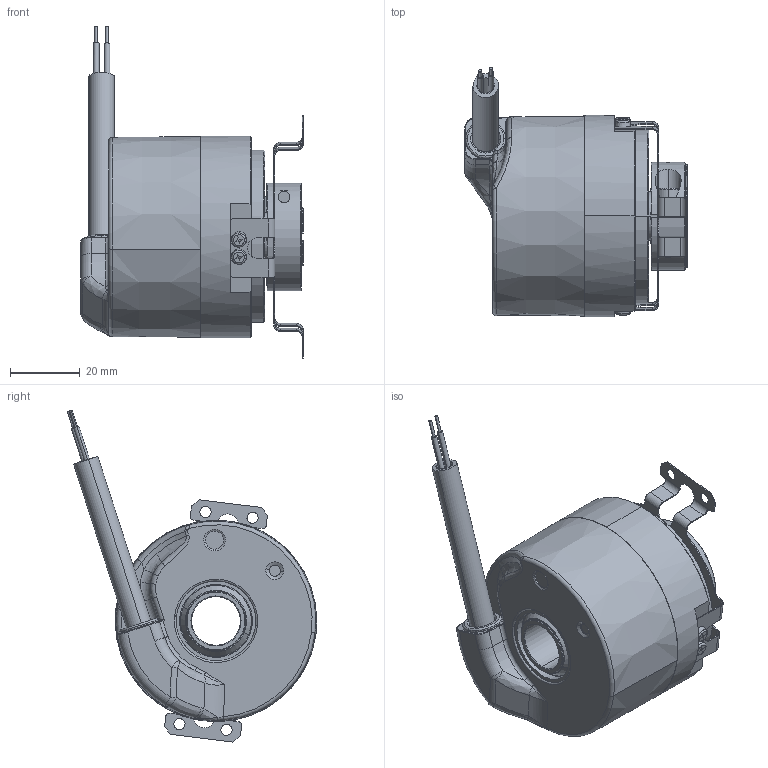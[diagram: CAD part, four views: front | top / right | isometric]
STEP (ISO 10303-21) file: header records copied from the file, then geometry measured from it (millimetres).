
FILE_DESCRIPTION (( 'STEP AP214' ), '1' );
FILE_NAME ('5834SIL.B5XE.XXXX.STEP', '2010-11-18T13:14:43', ( 'admin' ), ( 'Fritz Kübler GmbH' ), 'SwSTEP 2.0', 'SolidWorks 2009', '' );
FILE_SCHEMA (( 'AUTOMOTIVE_DESIGN' ));
Length unit declared in the file: millimetre
Products named in the file (1): 5834SIL.B5XE.XXXX
Bounding box: 64 x 71.81 x 95.55 mm (x, y, z)
Surface area: 27504.3 mm2 (no closed solid volume)
Topology: 0 solids, 16 shells, 435 faces, 1197 edges, 761 vertices
Faces by surface type: plane 172, cylinder 144, cone 54, torus 32, bspline 30, sphere 3
Entity records: 21957 total; most frequent: CARTESIAN_POINT 6124, DIRECTION 2398, ORIENTED_EDGE 2129, EDGE_CURVE 1194, AXIS2_PLACEMENT_3D 910, VERTEX_POINT 761, VECTOR 578, LINE 578
